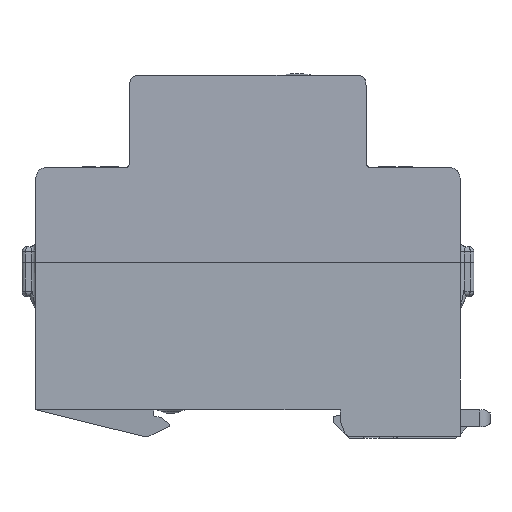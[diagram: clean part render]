
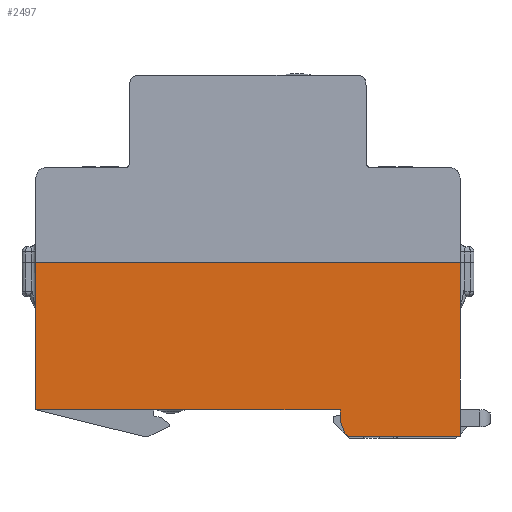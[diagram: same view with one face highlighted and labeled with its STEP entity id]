
A CAD part, left-side view. The second image highlights one B-rep face of the part: STEP entity #2497.
In plain terms, the highlighted planar face has unit normal (-1, 0, -0.006) as drawn and (0, -0.006, -1) by its records, which use the part's own axes.
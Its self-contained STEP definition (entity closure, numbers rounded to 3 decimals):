
#2497=ADVANCED_FACE('',(#33443),#33445,.T.);
#33443=FACE_BOUND('',#33444,.T.);
#33444=EDGE_LOOP('',(#64913,#64914,#64915,#64916,#64917,#64918,#64919,#64920,#64921));
#33445=PLANE('',#33446);
#33446=AXIS2_PLACEMENT_3D('',#33447,#33448,#33449);
#33447=CARTESIAN_POINT('',(-40.35,28.,-17.5));
#33448=DIRECTION('',(0.,-0.006,-1.));
#33449=DIRECTION('',(0.,1.,-0.006));
#64913=ORIENTED_EDGE('',*,*,#85236,.F.);
#64914=ORIENTED_EDGE('',*,*,#85237,.T.);
#64915=ORIENTED_EDGE('',*,*,#85238,.T.);
#64916=ORIENTED_EDGE('',*,*,#85239,.T.);
#64917=ORIENTED_EDGE('',*,*,#84623,.T.);
#64918=ORIENTED_EDGE('',*,*,#85018,.F.);
#64919=ORIENTED_EDGE('',*,*,#84454,.F.);
#64920=ORIENTED_EDGE('',*,*,#84972,.T.);
#64921=ORIENTED_EDGE('',*,*,#84785,.F.);
#84454=EDGE_CURVE('',#94394,#94396,#94397,.T.);
#84623=EDGE_CURVE('',#94717,#94715,#94718,.T.);
#84785=EDGE_CURVE('',#95001,#95003,#95004,.T.);
#84972=EDGE_CURVE('',#94394,#95003,#95324,.T.);
#85018=EDGE_CURVE('',#94396,#94715,#95411,.T.);
#85236=EDGE_CURVE('',#95796,#95001,#95797,.T.);
#85237=EDGE_CURVE('',#95796,#95798,#95799,.T.);
#85238=EDGE_CURVE('',#95798,#95800,#95801,.T.);
#85239=EDGE_CURVE('',#95800,#94717,#95802,.T.);
#94394=VERTEX_POINT('',#111465);
#94396=VERTEX_POINT('',#111469);
#94397=LINE('',#111470,#111471);
#94715=VERTEX_POINT('',#112149);
#94717=VERTEX_POINT('',#112153);
#94718=LINE('',#112154,#112155);
#95001=VERTEX_POINT('',#112765);
#95003=VERTEX_POINT('',#112769);
#95004=LINE('',#112770,#112771);
#95324=LINE('',#113622,#113623);
#95411=LINE('',#113872,#113873);
#95796=VERTEX_POINT('',#114887);
#95797=LINE('',#114888,#114889);
#95798=VERTEX_POINT('',#114891);
#95799=(BOUNDED_CURVE()B_SPLINE_CURVE(3,
(#114892,#114893,#114894,#114895),
.UNSPECIFIED.,.F.,.F.)B_SPLINE_CURVE_WITH_KNOTS((4,4),
(0.,1.),
.UNSPECIFIED.)CURVE()GEOMETRIC_REPRESENTATION_ITEM()RATIONAL_B_SPLINE_CURVE((1.,
0.99,0.99,1.))REPRESENTATION_ITEM(''));
#95800=VERTEX_POINT('',#114896);
#95801=LINE('',#114897,#114898);
#95802=(BOUNDED_CURVE()B_SPLINE_CURVE(3,
(#114900,#114901,#114902,#114903),
.UNSPECIFIED.,.F.,.F.)B_SPLINE_CURVE_WITH_KNOTS((4,4),
(0.,1.),
.UNSPECIFIED.)CURVE()GEOMETRIC_REPRESENTATION_ITEM()RATIONAL_B_SPLINE_CURVE((1.,
0.879,0.879,1.))REPRESENTATION_ITEM(''));
#111465=CARTESIAN_POINT('',(40.35,28.,-17.5));
#111469=CARTESIAN_POINT('',(-40.35,28.,-17.5));
#111470=CARTESIAN_POINT('',(40.35,28.,-17.5));
#111471=VECTOR('',#111472,1.);
#111472=DIRECTION('',(-1.,0.,0.));
#112149=CARTESIAN_POINT('',(-40.35,-5.,-17.31));
#112153=CARTESIAN_POINT('',(-19.292,-5.,-17.31));
#112154=CARTESIAN_POINT('',(-19.292,-5.,-17.31));
#112155=VECTOR('',#112156,1.);
#112156=DIRECTION('',(-1.,0.,0.));
#112765=CARTESIAN_POINT('',(-17.5,0.,-17.339));
#112769=CARTESIAN_POINT('',(40.35,0.,-17.339));
#112770=CARTESIAN_POINT('',(-17.5,0.,-17.339));
#112771=VECTOR('',#112772,1.);
#112772=DIRECTION('',(1.,0.,0.));
#113622=CARTESIAN_POINT('',(40.35,28.,-17.5));
#113623=VECTOR('',#113624,1.);
#113624=DIRECTION('',(0.,-1.,0.006));
#113872=CARTESIAN_POINT('',(-40.35,28.,-17.5));
#113873=VECTOR('',#113874,1.);
#113874=DIRECTION('',(0.,-1.,0.006));
#114887=CARTESIAN_POINT('',(-17.5,-1.824,-17.328));
#114888=CARTESIAN_POINT('',(-17.5,-1.824,-17.328));
#114889=VECTOR('',#114890,1.);
#114890=DIRECTION('',(0.,1.,-0.006));
#114891=CARTESIAN_POINT('',(-17.56,-2.166,-17.326));
#114892=CARTESIAN_POINT('',(-17.5,-1.824,-17.328));
#114893=CARTESIAN_POINT('',(-17.5,-1.941,-17.328));
#114894=CARTESIAN_POINT('',(-17.52,-2.056,-17.327));
#114895=CARTESIAN_POINT('',(-17.56,-2.166,-17.326));
#114896=CARTESIAN_POINT('',(-18.352,-4.342,-17.314));
#114897=CARTESIAN_POINT('',(-17.56,-2.166,-17.326));
#114898=VECTOR('',#114899,1.);
#114899=DIRECTION('',(-0.342,-0.94,0.005));
#114900=CARTESIAN_POINT('',(-18.352,-4.342,-17.314));
#114901=CARTESIAN_POINT('',(-18.501,-4.751,-17.311));
#114902=CARTESIAN_POINT('',(-18.857,-5.,-17.31));
#114903=CARTESIAN_POINT('',(-19.292,-5.,-17.31));
